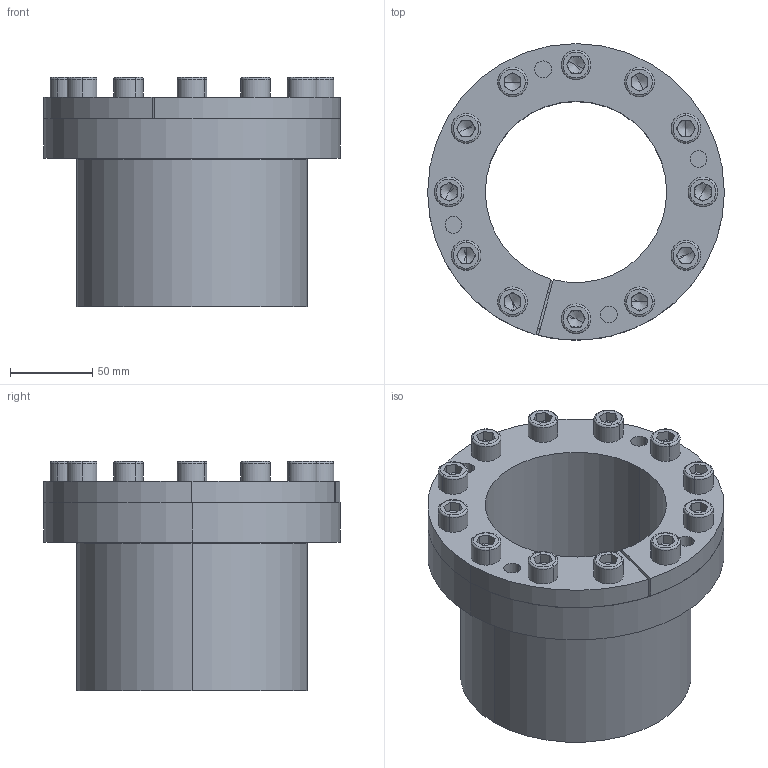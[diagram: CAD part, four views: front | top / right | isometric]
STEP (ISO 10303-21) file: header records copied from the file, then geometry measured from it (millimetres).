
FILE_DESCRIPTION (( 'STEP AP214' ), '1' );
FILE_NAME ('CONEX-B-110x140.step', '2013-04-04T12:42:44', ( 'Pc' ), ( '' ), 'SwSTEP 2.0', 'SolidWorks 2013', '' );
FILE_SCHEMA (( 'AUTOMOTIVE_DESIGN' ));
Length unit declared in the file: millimetre
Products named in the file (1): CONEX-B-110x140
Bounding box: 180 x 180 x 139.04 mm (x, y, z)
Volume: 1061971.6 mm3; surface area: 305413.1 mm2
Topology: 15 solids, 15 shells, 420 faces, 962 edges, 572 vertices
Faces by surface type: plane 192, cylinder 120, torus 54, cone 54
Entity records: 16564 total; most frequent: DIRECTION 2226, CARTESIAN_POINT 1979, ORIENTED_EDGE 1876, EDGE_CURVE 938, AXIS2_PLACEMENT_3D 875, VERTEX_POINT 572, EDGE_LOOP 502, VECTOR 476
